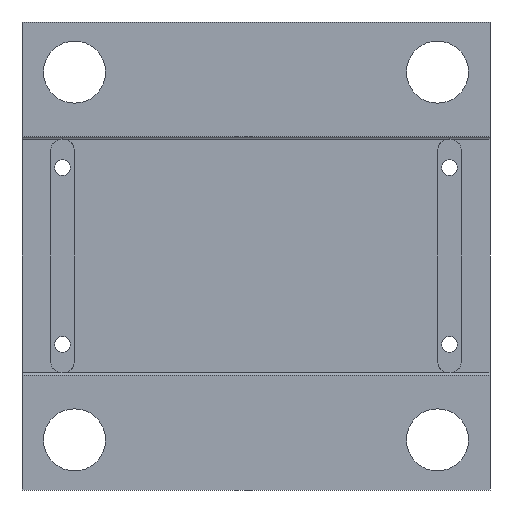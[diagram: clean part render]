
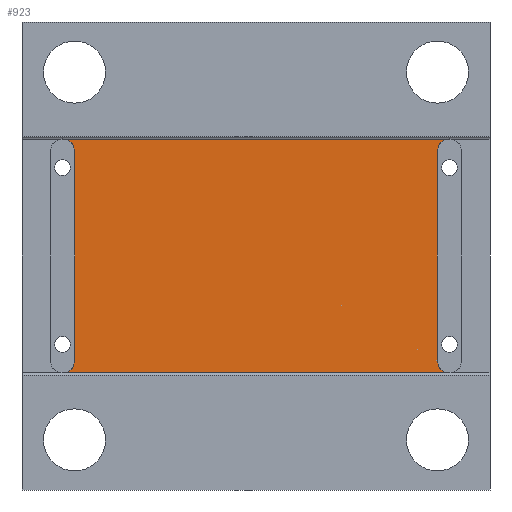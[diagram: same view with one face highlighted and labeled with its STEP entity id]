
A CAD part, front view. The second image highlights one B-rep face of the part: STEP entity #923.
In plain terms, the highlighted planar face has unit normal (0, -1, 0).
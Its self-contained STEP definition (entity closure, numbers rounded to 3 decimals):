
#60=CIRCLE('',#1003,5.);
#61=CIRCLE('',#1004,5.);
#62=CIRCLE('',#1005,5.);
#63=CIRCLE('',#1006,5.);
#128=ORIENTED_EDGE('',*,*,#356,.T.);
#129=ORIENTED_EDGE('',*,*,#357,.T.);
#130=ORIENTED_EDGE('',*,*,#358,.T.);
#131=ORIENTED_EDGE('',*,*,#359,.T.);
#132=ORIENTED_EDGE('',*,*,#360,.T.);
#133=ORIENTED_EDGE('',*,*,#361,.T.);
#134=ORIENTED_EDGE('',*,*,#362,.F.);
#135=ORIENTED_EDGE('',*,*,#363,.T.);
#356=EDGE_CURVE('',#470,#471,#560,.T.);
#357=EDGE_CURVE('',#471,#472,#60,.T.);
#358=EDGE_CURVE('',#472,#473,#561,.T.);
#359=EDGE_CURVE('',#473,#474,#61,.F.);
#360=EDGE_CURVE('',#474,#475,#562,.T.);
#361=EDGE_CURVE('',#475,#476,#62,.T.);
#362=EDGE_CURVE('',#477,#476,#563,.T.);
#363=EDGE_CURVE('',#477,#470,#63,.T.);
#470=VERTEX_POINT('',#1451);
#471=VERTEX_POINT('',#1452);
#472=VERTEX_POINT('',#1454);
#473=VERTEX_POINT('',#1456);
#474=VERTEX_POINT('',#1458);
#475=VERTEX_POINT('',#1460);
#476=VERTEX_POINT('',#1462);
#477=VERTEX_POINT('',#1464);
#560=LINE('',#1450,#610);
#561=LINE('',#1455,#611);
#562=LINE('',#1459,#612);
#563=LINE('',#1463,#613);
#610=VECTOR('',#1141,1000.);
#611=VECTOR('',#1144,1000.);
#612=VECTOR('',#1147,1000.);
#613=VECTOR('',#1150,1000.);
#657=EDGE_LOOP('',(#128,#129,#130,#131,#132,#133,#134,#135));
#773=FACE_BOUND('',#657,.T.);
#893=PLANE('',#1002);
#923=ADVANCED_FACE('',(#773),#893,.T.);
#1002=AXIS2_PLACEMENT_3D('',#1449,#1139,#1140);
#1003=AXIS2_PLACEMENT_3D('',#1453,#1142,#1143);
#1004=AXIS2_PLACEMENT_3D('',#1457,#1145,#1146);
#1005=AXIS2_PLACEMENT_3D('',#1461,#1148,#1149);
#1006=AXIS2_PLACEMENT_3D('',#1465,#1151,#1152);
#1139=DIRECTION('',(0.,-1.,0.));
#1140=DIRECTION('',(0.,0.,-1.));
#1141=DIRECTION('',(0.,0.,1.));
#1142=DIRECTION('',(0.,1.,0.));
#1143=DIRECTION('',(1.,0.,0.));
#1144=DIRECTION('',(-1.,0.,0.));
#1145=DIRECTION('',(0.,-1.,0.));
#1146=DIRECTION('',(0.,0.,-1.));
#1147=DIRECTION('',(0.,0.,-1.));
#1148=DIRECTION('',(0.,1.,0.));
#1149=DIRECTION('',(1.,0.,0.));
#1150=DIRECTION('',(-1.,0.,0.));
#1151=DIRECTION('',(0.,1.,0.));
#1152=DIRECTION('',(1.,0.,0.));
#1449=CARTESIAN_POINT('',(98.,32.,-48.75));
#1450=CARTESIAN_POINT('',(76.,32.,-44.));
#1451=CARTESIAN_POINT('',(76.,32.,-44.));
#1452=CARTESIAN_POINT('',(76.,32.,44.));
#1453=CARTESIAN_POINT('',(81.,32.,44.));
#1454=CARTESIAN_POINT('',(79.439,32.,48.75));
#1455=CARTESIAN_POINT('',(98.,32.,48.75));
#1456=CARTESIAN_POINT('',(-79.439,32.,48.75));
#1457=CARTESIAN_POINT('',(-81.,32.,44.));
#1458=CARTESIAN_POINT('',(-76.,32.,44.));
#1459=CARTESIAN_POINT('',(-76.,32.,44.));
#1460=CARTESIAN_POINT('',(-76.,32.,-44.));
#1461=CARTESIAN_POINT('',(-81.,32.,-44.));
#1462=CARTESIAN_POINT('',(-79.439,32.,-48.75));
#1463=CARTESIAN_POINT('',(98.,32.,-48.75));
#1464=CARTESIAN_POINT('',(79.439,32.,-48.75));
#1465=CARTESIAN_POINT('',(81.,32.,-44.));
